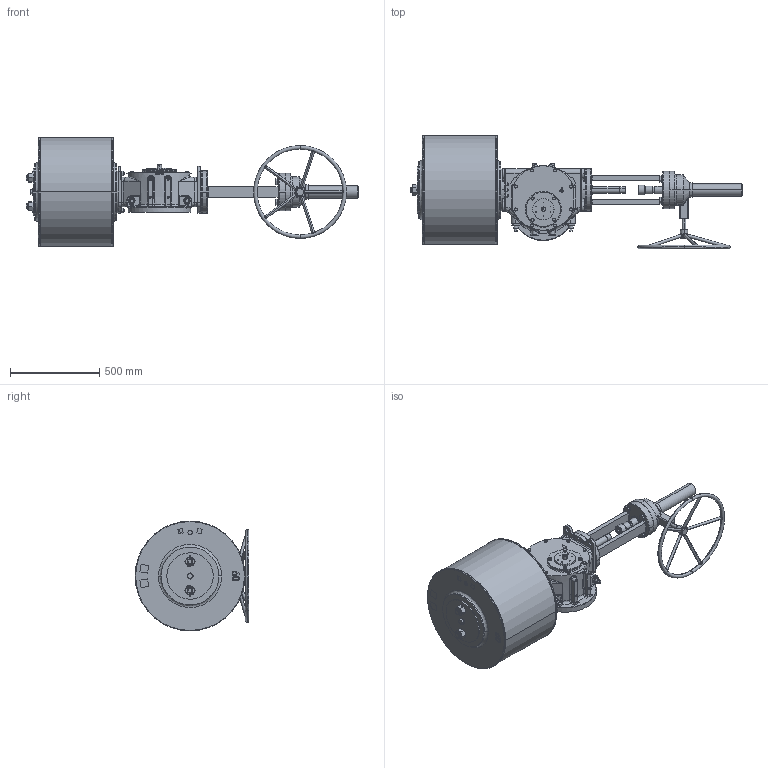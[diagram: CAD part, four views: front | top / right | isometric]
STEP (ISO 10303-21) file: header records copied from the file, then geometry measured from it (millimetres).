
FILE_DESCRIPTION (( 'STEP AP203' ), '1' );
FILE_NAME ('VTS4-600-MGD.STEP', '2023-01-01T09:35:42', ( '' ), ( '' ), 'SwSTEP 2.0', 'SolidWorks 2020', '' );
FILE_SCHEMA (( 'CONFIG_CONTROL_DESIGN' ));
Products named in the file (1): VTS4-600-MGD
Bounding box: 1861.5 x 638 x 616 mm (x, y, z)
Volume: 163857680.4 mm3; surface area: 3256505.5 mm2
Topology: 3 solids, 20 shells, 2406 faces, 6084 edges, 3808 vertices
Faces by surface type: plane 1040, cylinder 791, cone 407, bspline 136, torus 32
Entity records: 90794 total; most frequent: CARTESIAN_POINT 33586, DIRECTION 12012, ORIENTED_EDGE 11976, EDGE_CURVE 5988, AXIS2_PLACEMENT_3D 4688, VERTEX_POINT 3808, EDGE_LOOP 2728, VECTOR 2636
